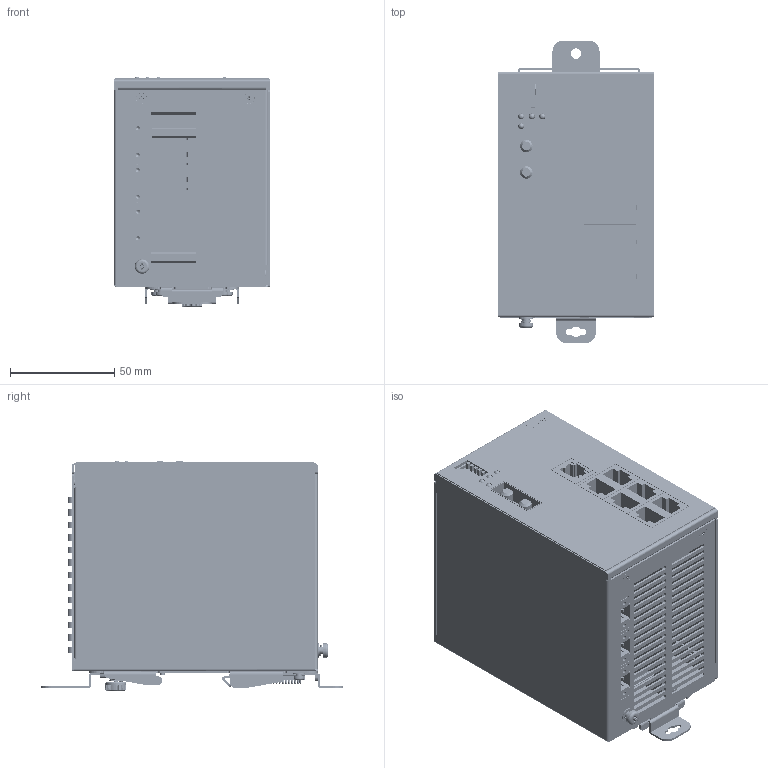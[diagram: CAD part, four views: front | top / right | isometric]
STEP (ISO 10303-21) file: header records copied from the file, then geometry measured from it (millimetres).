
FILE_DESCRIPTION((''),'2;1');
FILE_NAME('DVS-008W01-MC01_ASM','2014-12-08T',('ANDREW.AS.SUN'),(''),'PRO/ENGINEER BY PARAMETRIC TECHNOLOGY CORPORATION, 2010280','PRO/ENGINEER BY PARAMETRIC TECHNOLOGY CORPORATION, 2010280','');
FILE_SCHEMA(('CONFIG_CONTROL_DESIGN'));
Products named in the file (31): BASE-8P; COVER-8P; PANEL-8P; PCB-M-8P; STAND_OFF_30; MSD32_MALE; TB293; DIN-SWITCH-5PIN; 1X3_G-G; 1X1_LED; OPT-155B; PCB-M-8P_ASM; PCB-M-16P; MSD232_FEMALE; 307229417C; 307228297C-EM50188GF2NN46PF; PCB-M-16P_ASM; NAMEPLATE; 3105460500; LOGO-2; STUD_M3_0-S; SCREW_M4; BACK_PLATE_2; SNAP; SPRING; SNAP_2; 46-111-501-1_20100903_; SNAP2_ASM; 3100320300-SCREW; STUD_M3_0; DVS-008W01-MC01_ASM
Assembly tree (51 placements, depth 3):
  DVS-008W01-MC01_ASM
    BASE-8P
    COVER-8P
    PANEL-8P
    PCB-M-8P_ASM
      PCB-M-8P
      STAND_OFF_30  x4
      MSD32_MALE
      TB293  x3
      DIN-SWITCH-5PIN
      1X3_G-G
      1X1_LED
      OPT-155B
    PCB-M-16P_ASM
      PCB-M-16P
      MSD232_FEMALE
      307229417C  x3
      307228297C-EM50188GF2NN46PF
    NAMEPLATE
    3105460500  x10
    LOGO-2
    STUD_M3_0-S  x2
    SCREW_M4
    BACK_PLATE_2
    SNAP
    SPRING
    SNAP2_ASM
      SNAP_2
      46-111-501-1_20100903_
    3100320300-SCREW  x4
    STUD_M3_0  x2
Bounding box: 75 x 145.3 x 110.62 mm (x, y, z)
Volume: 146616.4 mm3; surface area: 221977.9 mm2
Topology: 54 solids, 65 shells, 4887 faces, 12215 edges, 7599 vertices
Faces by surface type: plane 2865, cylinder 1466, bspline 293, cone 150, extrusion 53, torus 52, sphere 8
Entity records: 132702 total; most frequent: CARTESIAN_POINT 40786, ORIENTED_EDGE 18937, DIRECTION 18566, EDGE_CURVE 9498, VECTOR 6628, LINE 6575, AXIS2_PLACEMENT_3D 5969, VERTEX_POINT 5878
